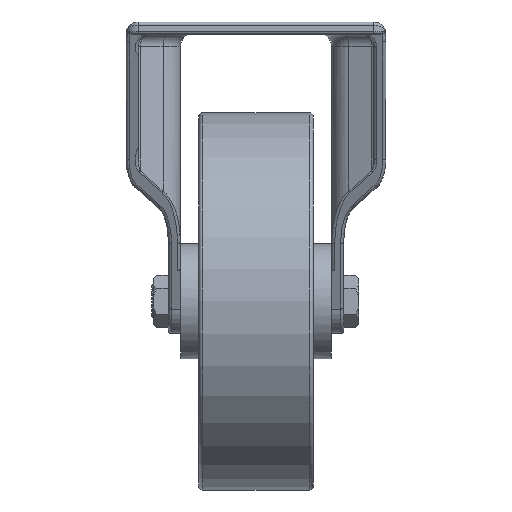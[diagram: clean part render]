
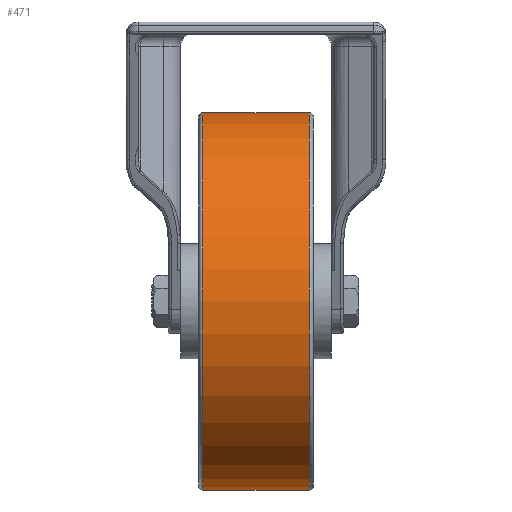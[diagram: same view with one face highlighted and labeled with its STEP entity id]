
A CAD part, left-side view. The second image highlights one B-rep face of the part: STEP entity #471.
In plain terms, the highlighted cylindrical face has radius 62.5 mm (diameter 125 mm), a partial arc.
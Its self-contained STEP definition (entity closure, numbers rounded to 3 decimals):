
#276 = DIRECTION ( 'NONE',  ( 0., -1., 0. ) ) ;
#299 = DIRECTION ( 'NONE',  ( 0., -1., 0. ) ) ;
#459 = EDGE_CURVE ( 'NONE', #3445, #2579, #4144, .T. ) ;
#471 = ADVANCED_FACE ( 'NONE', ( #4948 ), #7075, .T. ) ;
#677 = EDGE_LOOP ( 'NONE', ( #5966, #6821, #2865, #4907 ) ) ;
#1143 = AXIS2_PLACEMENT_3D ( 'NONE', #6441, #1599, #6393 ) ;
#1599 = DIRECTION ( 'NONE',  ( 0., -1., 0. ) ) ;
#1830 = VERTEX_POINT ( 'NONE', #5999 ) ;
#1854 = CARTESIAN_POINT ( 'NONE',  ( 0., -17.6, 0. ) ) ;
#2334 = AXIS2_PLACEMENT_3D ( 'NONE', #5733, #299, #8457 ) ;
#2579 = VERTEX_POINT ( 'NONE', #7952 ) ;
#2865 = ORIENTED_EDGE ( 'NONE', *, *, #459, .T. ) ;
#3409 = EDGE_CURVE ( 'NONE', #4567, #1830, #7047, .T. ) ;
#3445 = VERTEX_POINT ( 'NONE', #7606 ) ;
#4144 = LINE ( 'NONE', #6835, #5377 ) ;
#4543 = DIRECTION ( 'NONE',  ( 0., 1., 0. ) ) ;
#4567 = VERTEX_POINT ( 'NONE', #5190 ) ;
#4828 = DIRECTION ( 'NONE',  ( 0., -1., 0. ) ) ;
#4907 = ORIENTED_EDGE ( 'NONE', *, *, #6149, .T. ) ;
#4948 = FACE_OUTER_BOUND ( 'NONE', #677, .T. ) ;
#4990 = VECTOR ( 'NONE', #4828, 1000. ) ;
#5007 = CIRCLE ( 'NONE', #7871, 62.5 ) ;
#5190 = CARTESIAN_POINT ( 'NONE',  ( 0., 17.6, 62.5 ) ) ;
#5377 = VECTOR ( 'NONE', #276, 1000. ) ;
#5733 = CARTESIAN_POINT ( 'NONE',  ( 0., 17.6, 0. ) ) ;
#5966 = ORIENTED_EDGE ( 'NONE', *, *, #3409, .F. ) ;
#5999 = CARTESIAN_POINT ( 'NONE',  ( 0., -17.6, 62.5 ) ) ;
#6149 = EDGE_CURVE ( 'NONE', #2579, #1830, #5007, .T. ) ;
#6307 = EDGE_CURVE ( 'NONE', #4567, #3445, #6729, .T. ) ;
#6393 = DIRECTION ( 'NONE',  ( 0., 0., -1. ) ) ;
#6441 = CARTESIAN_POINT ( 'NONE',  ( 0., 19., 0. ) ) ;
#6729 = CIRCLE ( 'NONE', #2334, 62.5 ) ;
#6821 = ORIENTED_EDGE ( 'NONE', *, *, #6307, .T. ) ;
#6835 = CARTESIAN_POINT ( 'NONE',  ( 0., 19., -62.5 ) ) ;
#6946 = CARTESIAN_POINT ( 'NONE',  ( 0., 19., 62.5 ) ) ;
#7047 = LINE ( 'NONE', #6946, #4990 ) ;
#7075 = CYLINDRICAL_SURFACE ( 'NONE', #1143, 62.5 ) ;
#7279 = DIRECTION ( 'NONE',  ( 0., 0., -1. ) ) ;
#7606 = CARTESIAN_POINT ( 'NONE',  ( 0., 17.6, -62.5 ) ) ;
#7871 = AXIS2_PLACEMENT_3D ( 'NONE', #1854, #4543, #7279 ) ;
#7952 = CARTESIAN_POINT ( 'NONE',  ( 0., -17.6, -62.5 ) ) ;
#8457 = DIRECTION ( 'NONE',  ( 0., 0., -1. ) ) ;
